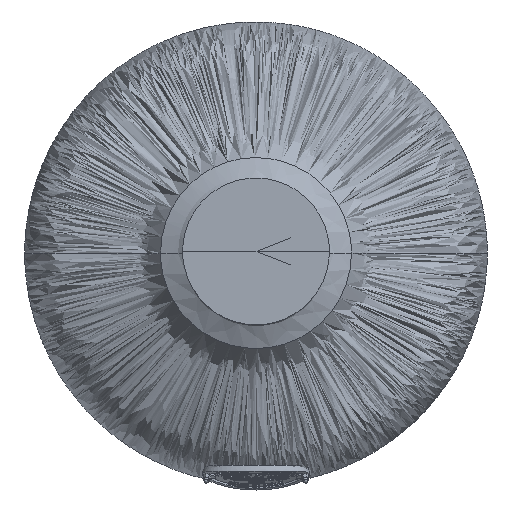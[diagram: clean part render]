
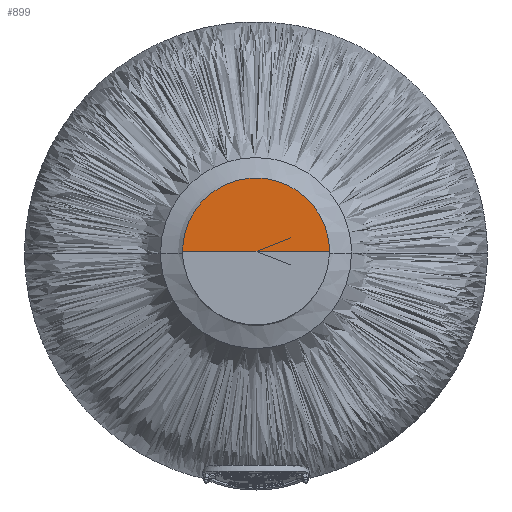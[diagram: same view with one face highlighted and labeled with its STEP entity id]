
A CAD part, top view. The second image highlights one B-rep face of the part: STEP entity #899.
In plain terms, the highlighted free-form (B-spline) face has degree [2, 1] with [5, 2] control points.
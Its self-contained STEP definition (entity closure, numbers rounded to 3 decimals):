
#899=ADVANCED_FACE('',(#2788),#29073,.T.);
#2788=FACE_OUTER_BOUND('',#4681,.T.);
#4681=EDGE_LOOP('',(#6929,#6930,#6931));
#6929=ORIENTED_EDGE('',*,*,#16449,.T.);
#6930=ORIENTED_EDGE('',*,*,#16443,.F.);
#6931=ORIENTED_EDGE('',*,*,#16438,.F.);
#16438=EDGE_CURVE('',#26086,#26091,#22231,.T.);
#16443=EDGE_CURVE('',#26091,#26093,#21205,.T.);
#16449=EDGE_CURVE('',#26086,#26093,#22237,.T.);
#21205=(
BOUNDED_CURVE()
B_SPLINE_CURVE(2,(#47873,#47874,#47875,#47876,#47877),.UNSPECIFIED.,.F.,
 .F.)
B_SPLINE_CURVE_WITH_KNOTS((3,2,3),(0.,17.33,34.661),
 .UNSPECIFIED.)
CURVE()
GEOMETRIC_REPRESENTATION_ITEM()
RATIONAL_B_SPLINE_CURVE((1.,0.707,1.,0.707,1.))
REPRESENTATION_ITEM('')
);
#22231=B_SPLINE_CURVE_WITH_KNOTS('',1,(#47863,#47864),.UNSPECIFIED.,.F.,
 .F.,(2,2),(32.78,43.912),.UNSPECIFIED.);
#22237=B_SPLINE_CURVE_WITH_KNOTS('',1,(#47900,#47901),.UNSPECIFIED.,.F.,
 .F.,(2,2),(32.78,43.912),.UNSPECIFIED.);
#26086=VERTEX_POINT('',#47853);
#26091=VERTEX_POINT('',#47858);
#26093=VERTEX_POINT('',#47860);
#29073=(
BOUNDED_SURFACE()
B_SPLINE_SURFACE(2,1,((#47763,#47764),(#47765,#47766),(#47767,#47768),(#47769,
#47770),(#47771,#47772)),.UNSPECIFIED.,.F.,.F.,.F.)
B_SPLINE_SURFACE_WITH_KNOTS((3,2,3),(2,2),(0.,17.33,34.661),
(32.78,43.912),.UNSPECIFIED.)
GEOMETRIC_REPRESENTATION_ITEM()
RATIONAL_B_SPLINE_SURFACE(((1.,1.),(0.707,0.707),
(1.,1.),(0.707,0.707),(1.,1.)))
REPRESENTATION_ITEM('')
SURFACE()
);
#47763=CARTESIAN_POINT('',(0.,0.,0.));
#47764=CARTESIAN_POINT('',(-55.49,0.,0.));
#47765=CARTESIAN_POINT('',(0.,0.,0.));
#47766=CARTESIAN_POINT('',(-55.49,55.49,0.));
#47767=CARTESIAN_POINT('',(0.,0.,0.));
#47768=CARTESIAN_POINT('',(0.,55.49,0.));
#47769=CARTESIAN_POINT('',(0.,0.,0.));
#47770=CARTESIAN_POINT('',(55.49,55.49,0.));
#47771=CARTESIAN_POINT('',(0.,0.,0.));
#47772=CARTESIAN_POINT('',(55.49,0.,0.));
#47853=CARTESIAN_POINT('',(0.,0.,0.));
#47858=CARTESIAN_POINT('',(-55.49,0.,0.));
#47860=CARTESIAN_POINT('',(55.49,0.,0.));
#47863=CARTESIAN_POINT('',(0.,0.,0.));
#47864=CARTESIAN_POINT('',(-55.49,0.,0.));
#47873=CARTESIAN_POINT('',(-55.49,0.,0.));
#47874=CARTESIAN_POINT('',(-55.49,55.49,0.));
#47875=CARTESIAN_POINT('',(0.,55.49,0.));
#47876=CARTESIAN_POINT('',(55.49,55.49,0.));
#47877=CARTESIAN_POINT('',(55.49,0.,0.));
#47900=CARTESIAN_POINT('',(0.,0.,0.));
#47901=CARTESIAN_POINT('',(55.49,0.,0.));
